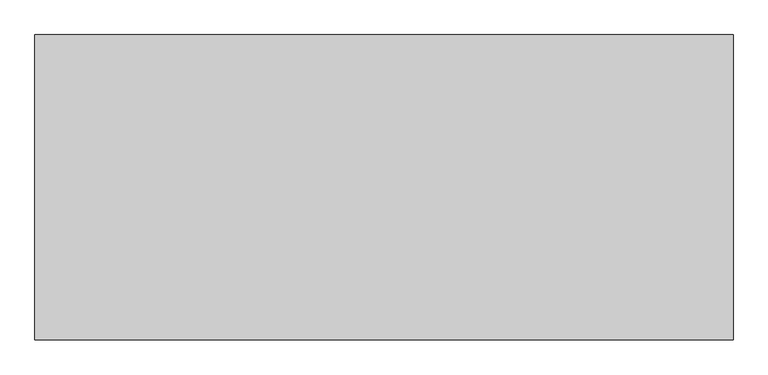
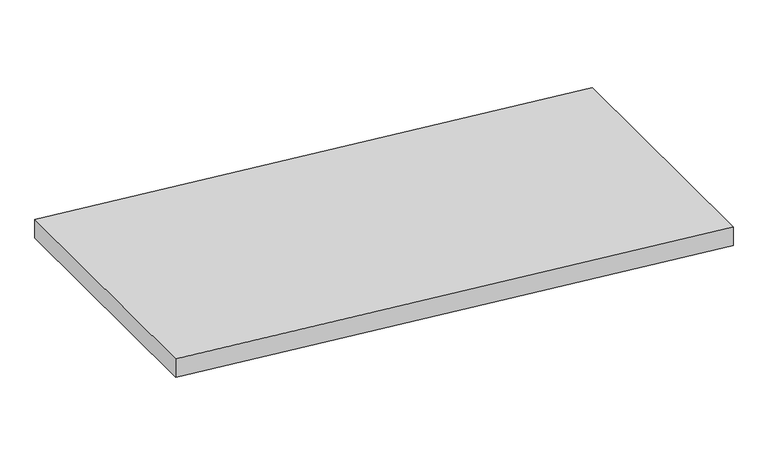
"""IFC4 building model written with IfcOpenShell, lengths in millimetres: ramp geometry, Пандус 1."""

from ifc_helpers import new_model, si_unit, frame, origin, place, context, project, spatial, polyline, outline, extrude, source, transform, mapped, element, save


def ramp_f884092f(model_context):
    return source(origin(), model_context, "Body", "SweptSolid", [
        extrude(outline(polyline([(-500.0, 1142.7882356), (-70.0, -3157.2117644), (-220.7481343, -3157.2117644), (-650.7481343, 1142.7882356), (-500.0, 1142.7882356)])), frame((0.0, 18912.3976828, 0.0), z_axis=(0.0, 1.0, 0.0), x_axis=(0.0, 0.0, 1.0)), (0.0, 0.0, 1.0), 1880.0),
    ])


if __name__ == "__main__":
    model = new_model("IFC4")
    model_context = context("Model", 3, world=origin())
    ifc_project = project(units=[si_unit("LENGTHUNIT", "METRE", prefix="MILLI")], contexts=[model_context])
    site = spatial("IfcSite", under=ifc_project)
    building = spatial("IfcBuilding", under=site)
    placement = place(None, origin())
    ramp_shape = ramp_f884092f(model_context)
    element("IfcRamp", 1, ObjectType="Пандус 1", at=placement, inside=building, context=model_context, shape_type="MappedRepresentation", body=[
        mapped(ramp_shape, transform((0.0, 0.0, 0.0), x_axis=(1.0, 0.0, 0.0), y_axis=(0.0, 1.0, 0.0), z_axis=(0.0, 0.0, 1.0))),
    ])
    save(model, "model.ifc")
